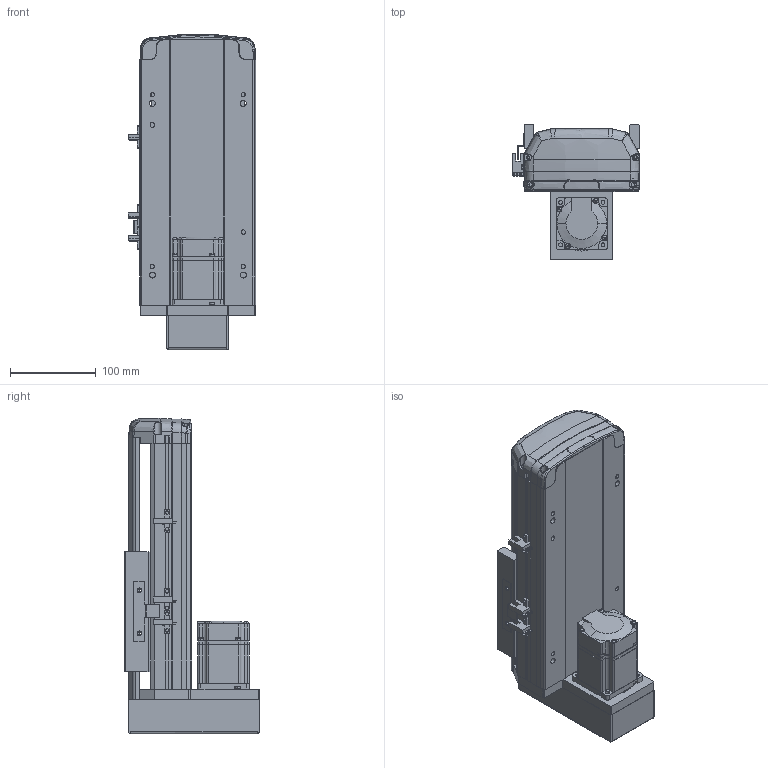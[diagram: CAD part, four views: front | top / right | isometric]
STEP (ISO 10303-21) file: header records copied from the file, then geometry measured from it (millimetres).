
FILE_DESCRIPTION (( 'STEP AP214' ), '1' );
FILE_NAME ('RTH14-XX-100-M-M20-C4.STEP', '2025-10-25T02:45:59', ( 'Microsoft' ), ( 'Microsoft' ), 'SwSTEP 2.0', 'SolidWorks 2018', '' );
FILE_SCHEMA (( 'AUTOMOTIVE_DESIGN' ));
Length unit declared in the file: millimetre
Products named in the file (10): N_RTH13-L-012感应片（外置）^RTH14-XX-XX-M-M20-C4; N_MSMD022P1AA_200W^RTH14-XX-XX-M-M20-C4; N_RTH13-M-018裔赽^RTH14-XX-XX-M-M20-C4; N_RTH13-M-008萇儂啣狟殏^RTH14-XX-XX-M-M20-C4; N_RTH14-M-011P菁釱^RTH14-XX-XX-M-M20-C4; N_RTH14-GY-001P^RTH14-XX-XX-M-M20-C4; N_RTH14-R-004-SFSR16賑釱^RTH14-XX-XX-M-M20-C4; RTH14-XX-100-M-M20-C4; N_OMRON EE-SX672 传感器^RTH14-XX-XX-M-M20-C4; N_RTH14-M-007P奻裔^RTH14-XX-XX-M-M20-C4
Assembly tree (11 placements, depth 2):
  RTH14-XX-100-M-M20-C4
    N_RTH14-M-011P菁釱^RTH14-XX-XX-M-M20-C4
    N_RTH14-M-007P奻裔^RTH14-XX-XX-M-M20-C4
    N_MSMD022P1AA_200W^RTH14-XX-XX-M-M20-C4
    N_RTH13-M-008萇儂啣狟殏^RTH14-XX-XX-M-M20-C4
    N_RTH13-M-018裔赽^RTH14-XX-XX-M-M20-C4
    N_RTH13-L-012感应片（外置）^RTH14-XX-XX-M-M20-C4
    N_OMRON EE-SX672 传感器^RTH14-XX-XX-M-M20-C4  x3
    N_RTH14-R-004-SFSR16賑釱^RTH14-XX-XX-M-M20-C4
    N_RTH14-GY-001P^RTH14-XX-XX-M-M20-C4
Bounding box: 148.5 x 156.5 x 367.49 mm (x, y, z)
Volume: 2042248.6 mm3; surface area: 488080.2 mm2
Topology: 11 solids, 11 shells, 1833 faces, 5114 edges, 3348 vertices
Faces by surface type: plane 989, cylinder 450, bspline 345, cone 45, torus 4
Entity records: 55564 total; most frequent: CARTESIAN_POINT 22637, ORIENTED_EDGE 7296, DIRECTION 5773, EDGE_CURVE 3648, VERTEX_POINT 2384, LINE 2131, VECTOR 2131, AXIS2_PLACEMENT_3D 1821
